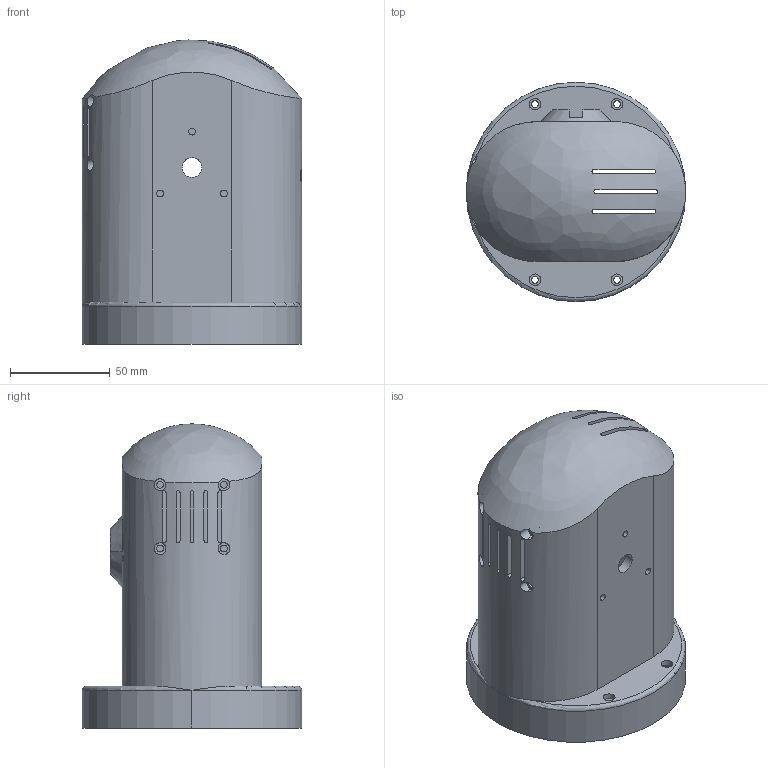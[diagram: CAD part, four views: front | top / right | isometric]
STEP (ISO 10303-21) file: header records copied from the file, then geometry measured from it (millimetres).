
FILE_DESCRIPTION((''),'2;1');
FILE_NAME('ART3BODY_V-3','2022-08-24T09:24:56',('domen.bizjak'),('Audax d.o.o.'),'CREO PARAMETRIC BY PTC INC, 2021184','CREO PARAMETRIC BY PTC INC, 2021184','');
FILE_SCHEMA(('AP242_MANAGED_MODEL_BASED_3D_ENGINEERING_MIM_LF { 1 0 10303 442 1 1 4 }'));
Length unit declared in the file: millimetre
Products named in the file (1): ART3BODY_V-3
Bounding box: 110 x 110 x 152.47 mm (x, y, z)
Volume: 268889.2 mm3; surface area: 102467.7 mm2
Topology: 1 solids, 1 shells, 248 faces, 742 edges, 521 vertices
Faces by surface type: plane 140, cylinder 102, cone 2, torus 2, bspline 2
Entity records: 12078 total; most frequent: CARTESIAN_POINT 2325, ORIENTED_EDGE 1464, DIRECTION 1425, PRESENTATION_STYLE_ASSIGNMENT 749, STYLED_ITEM 749, CURVE_STYLE 744, EDGE_CURVE 732, AXIS2_PLACEMENT_3D 511
